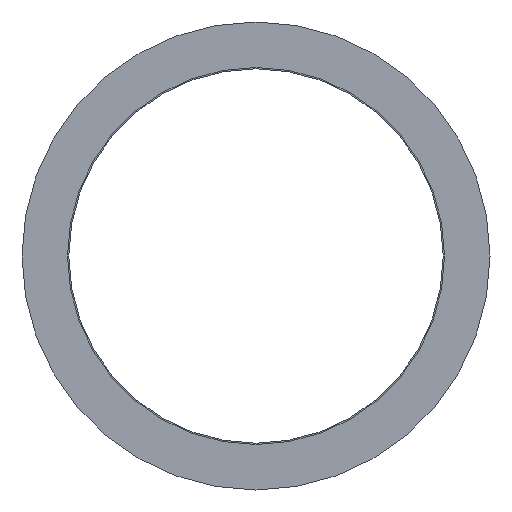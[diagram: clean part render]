
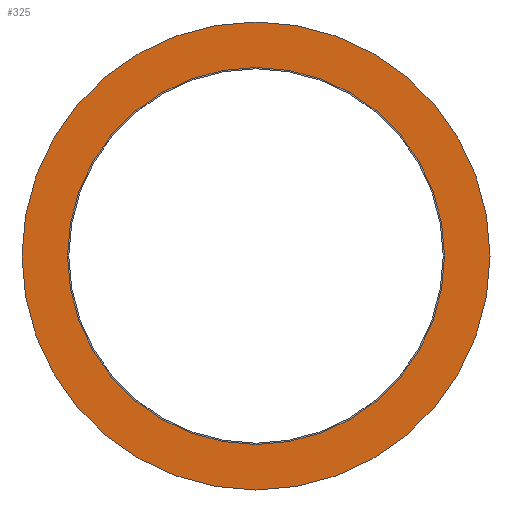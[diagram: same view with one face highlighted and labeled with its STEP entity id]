
A CAD part, left-side view. The second image highlights one B-rep face of the part: STEP entity #325.
In plain terms, the highlighted planar face has unit normal (-1, 0, 0).
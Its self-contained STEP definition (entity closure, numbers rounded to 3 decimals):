
#25 = CIRCLE ( 'NONE', #107, 8.055 ) ;
#27 = EDGE_CURVE ( 'NONE', #259, #41, #400, .T. ) ;
#35 = CARTESIAN_POINT ( 'NONE',  ( -3.198, -0.027, 0. ) ) ;
#41 = VERTEX_POINT ( 'NONE', #310 ) ;
#42 = CARTESIAN_POINT ( 'NONE',  ( -3.198, -0.027, 0. ) ) ;
#52 = DIRECTION ( 'NONE',  ( 0., 0., 1. ) ) ;
#57 = CIRCLE ( 'NONE', #283, 8.055 ) ;
#59 = ORIENTED_EDGE ( 'NONE', *, *, #27, .T. ) ;
#60 = DIRECTION ( 'NONE',  ( 1., 0., 0. ) ) ;
#63 = EDGE_LOOP ( 'NONE', ( #409, #245 ) ) ;
#69 = AXIS2_PLACEMENT_3D ( 'NONE', #304, #371, #220 ) ;
#70 = FACE_OUTER_BOUND ( 'NONE', #247, .T. ) ;
#77 = DIRECTION ( 'NONE',  ( 0., 0., -1. ) ) ;
#80 = DIRECTION ( 'NONE',  ( -1., 0., 0. ) ) ;
#92 = EDGE_CURVE ( 'NONE', #333, #327, #57, .T. ) ;
#93 = AXIS2_PLACEMENT_3D ( 'NONE', #360, #193, #188 ) ;
#96 = CIRCLE ( 'NONE', #93, 10. ) ;
#102 = DIRECTION ( 'NONE',  ( 0., 0., 1. ) ) ;
#107 = AXIS2_PLACEMENT_3D ( 'NONE', #35, #80, #52 ) ;
#174 = CARTESIAN_POINT ( 'NONE',  ( -3.198, -0.027, 8.055 ) ) ;
#186 = EDGE_CURVE ( 'NONE', #327, #333, #25, .T. ) ;
#188 = DIRECTION ( 'NONE',  ( 0., 0., 1. ) ) ;
#193 = DIRECTION ( 'NONE',  ( -1., 0., 0. ) ) ;
#194 = CARTESIAN_POINT ( 'NONE',  ( -3.198, -0.027, 10. ) ) ;
#217 = CARTESIAN_POINT ( 'NONE',  ( -3.198, -0.027, -8.055 ) ) ;
#220 = DIRECTION ( 'NONE',  ( 0., 0., 1. ) ) ;
#231 = AXIS2_PLACEMENT_3D ( 'NONE', #332, #60, #77 ) ;
#235 = FACE_BOUND ( 'NONE', #63, .T. ) ;
#245 = ORIENTED_EDGE ( 'NONE', *, *, #92, .F. ) ;
#247 = EDGE_LOOP ( 'NONE', ( #59, #401 ) ) ;
#259 = VERTEX_POINT ( 'NONE', #194 ) ;
#283 = AXIS2_PLACEMENT_3D ( 'NONE', #42, #294, #102 ) ;
#294 = DIRECTION ( 'NONE',  ( -1., 0., 0. ) ) ;
#296 = EDGE_CURVE ( 'NONE', #41, #259, #96, .T. ) ;
#304 = CARTESIAN_POINT ( 'NONE',  ( -3.198, -0.027, 0. ) ) ;
#310 = CARTESIAN_POINT ( 'NONE',  ( -3.198, -0.027, -10. ) ) ;
#325 = ADVANCED_FACE ( 'NONE', ( #235, #70 ), #350, .F. ) ;
#327 = VERTEX_POINT ( 'NONE', #217 ) ;
#332 = CARTESIAN_POINT ( 'NONE',  ( -3.198, -0.027, 0. ) ) ;
#333 = VERTEX_POINT ( 'NONE', #174 ) ;
#350 = PLANE ( 'NONE',  #231 ) ;
#360 = CARTESIAN_POINT ( 'NONE',  ( -3.198, -0.027, 0. ) ) ;
#371 = DIRECTION ( 'NONE',  ( -1., 0., 0. ) ) ;
#400 = CIRCLE ( 'NONE', #69, 10. ) ;
#401 = ORIENTED_EDGE ( 'NONE', *, *, #296, .T. ) ;
#409 = ORIENTED_EDGE ( 'NONE', *, *, #186, .F. ) ;
